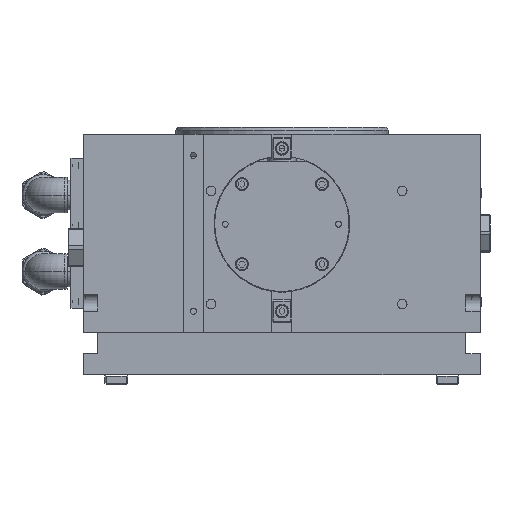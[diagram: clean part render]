
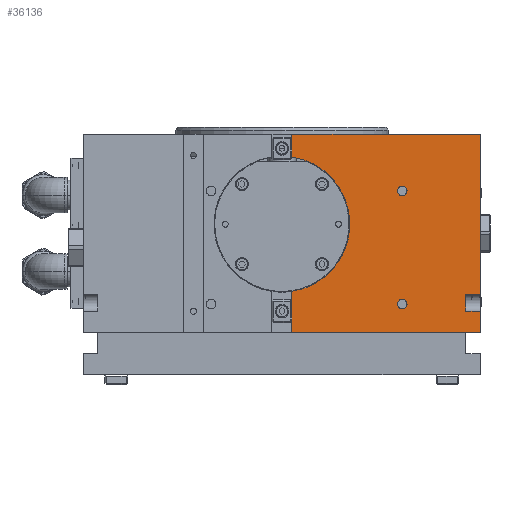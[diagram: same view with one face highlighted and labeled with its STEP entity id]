
A CAD part, front view. The second image highlights one B-rep face of the part: STEP entity #36136.
In plain terms, the highlighted planar face has unit normal (0, -1, 0).
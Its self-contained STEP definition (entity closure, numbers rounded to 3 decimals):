
#237 = CARTESIAN_POINT ( 'NONE',  ( 140., -120., 139. ) ) ;
#624 = CARTESIAN_POINT ( 'NONE',  ( 0., -120., 76.5 ) ) ;
#824 = LINE ( 'NONE', #9349, #4388 ) ;
#873 = CARTESIAN_POINT ( 'NONE',  ( 85., -120., 20. ) ) ;
#1135 = EDGE_CURVE ( 'NONE', #23582, #13482, #25125, .T. ) ;
#1144 = VECTOR ( 'NONE', #30641, 1000. ) ;
#1451 = EDGE_CURVE ( 'NONE', #10245, #1456, #824, .T. ) ;
#1456 = VERTEX_POINT ( 'NONE', #9730 ) ;
#2116 = ORIENTED_EDGE ( 'NONE', *, *, #18335, .F. ) ;
#2724 = DIRECTION ( 'NONE',  ( 0., 0., 1. ) ) ;
#3348 = CARTESIAN_POINT ( 'NONE',  ( 85., -120., 100. ) ) ;
#3645 = DIRECTION ( 'NONE',  ( 0., -1., 0. ) ) ;
#3974 = ORIENTED_EDGE ( 'NONE', *, *, #28690, .T. ) ;
#4222 = CARTESIAN_POINT ( 'NONE',  ( 85., -120., 100. ) ) ;
#4388 = VECTOR ( 'NONE', #33223, 1000. ) ;
#4541 = CARTESIAN_POINT ( 'NONE',  ( 85., -120., 96.6 ) ) ;
#5423 = EDGE_CURVE ( 'NONE', #20289, #31320, #18894, .T. ) ;
#5885 = DIRECTION ( 'NONE',  ( 1., 0., 0. ) ) ;
#6300 = ORIENTED_EDGE ( 'NONE', *, *, #38205, .F. ) ;
#6372 = CIRCLE ( 'NONE', #23128, 48. ) ;
#6687 = CARTESIAN_POINT ( 'NONE',  ( -140., -120., 140. ) ) ;
#6689 = VERTEX_POINT ( 'NONE', #4541 ) ;
#7036 = CARTESIAN_POINT ( 'NONE',  ( 85., -120., 16.6 ) ) ;
#7056 = VERTEX_POINT ( 'NONE', #16325 ) ;
#7265 = ORIENTED_EDGE ( 'NONE', *, *, #1451, .T. ) ;
#7978 = DIRECTION ( 'NONE',  ( 0., -1., 0. ) ) ;
#8594 = LINE ( 'NONE', #38285, #26103 ) ;
#8714 = LINE ( 'NONE', #35487, #17305 ) ;
#8853 = CARTESIAN_POINT ( 'NONE',  ( 85., -120., 20. ) ) ;
#9114 = VERTEX_POINT ( 'NONE', #30420 ) ;
#9227 = DIRECTION ( 'NONE',  ( 0., 1., 0. ) ) ;
#9349 = CARTESIAN_POINT ( 'NONE',  ( 130., -120., 27. ) ) ;
#9604 = EDGE_CURVE ( 'NONE', #34460, #14295, #36217, .T. ) ;
#9730 = CARTESIAN_POINT ( 'NONE',  ( 130., -120., 27. ) ) ;
#9815 = CARTESIAN_POINT ( 'NONE',  ( 140., -120., 27. ) ) ;
#10207 = DIRECTION ( 'NONE',  ( 0., -1., 0. ) ) ;
#10245 = VERTEX_POINT ( 'NONE', #31809 ) ;
#10353 = DIRECTION ( 'NONE',  ( 1., 0., 0. ) ) ;
#10665 = CARTESIAN_POINT ( 'NONE',  ( 7., -120., 0. ) ) ;
#11039 = LINE ( 'NONE', #10665, #22366 ) ;
#11123 = ORIENTED_EDGE ( 'NONE', *, *, #19064, .T. ) ;
#11261 = LINE ( 'NONE', #23120, #24214 ) ;
#11599 = VERTEX_POINT ( 'NONE', #35585 ) ;
#11769 = CARTESIAN_POINT ( 'NONE',  ( -140., -120., 140. ) ) ;
#12033 = AXIS2_PLACEMENT_3D ( 'NONE', #873, #35413, #26882 ) ;
#12208 = CIRCLE ( 'NONE', #38218, 3.4 ) ;
#12266 = VERTEX_POINT ( 'NONE', #29035 ) ;
#12704 = AXIS2_PLACEMENT_3D ( 'NONE', #4222, #3645, #30040 ) ;
#12730 = DIRECTION ( 'NONE',  ( 0., 0., -1. ) ) ;
#13482 = VERTEX_POINT ( 'NONE', #13766 ) ;
#13766 = CARTESIAN_POINT ( 'NONE',  ( 139., -120., 140. ) ) ;
#13800 = DIRECTION ( 'NONE',  ( 0., 0., -1. ) ) ;
#14040 = VECTOR ( 'NONE', #36923, 1000. ) ;
#14295 = VERTEX_POINT ( 'NONE', #16339 ) ;
#14309 = DIRECTION ( 'NONE',  ( -1., 0., 0. ) ) ;
#14713 = EDGE_CURVE ( 'NONE', #34417, #11599, #11039, .T. ) ;
#14852 = CARTESIAN_POINT ( 'NONE',  ( 7., -120., 0. ) ) ;
#14871 = FACE_BOUND ( 'NONE', #25969, .T. ) ;
#15337 = ORIENTED_EDGE ( 'NONE', *, *, #35868, .T. ) ;
#16084 = ORIENTED_EDGE ( 'NONE', *, *, #36910, .F. ) ;
#16325 = CARTESIAN_POINT ( 'NONE',  ( 140., -120., 1. ) ) ;
#16339 = CARTESIAN_POINT ( 'NONE',  ( 85., -120., 23.4 ) ) ;
#16454 = ORIENTED_EDGE ( 'NONE', *, *, #1135, .F. ) ;
#16489 = VECTOR ( 'NONE', #32300, 1000. ) ;
#16662 = CARTESIAN_POINT ( 'NONE',  ( -140., -120., 0. ) ) ;
#16954 = VECTOR ( 'NONE', #29283, 1000. ) ;
#17075 = ORIENTED_EDGE ( 'NONE', *, *, #5423, .F. ) ;
#17305 = VECTOR ( 'NONE', #20565, 1000. ) ;
#17529 = LINE ( 'NONE', #20455, #16489 ) ;
#17586 = FACE_BOUND ( 'NONE', #33962, .T. ) ;
#18122 = CARTESIAN_POINT ( 'NONE',  ( 139., -120., 0. ) ) ;
#18335 = EDGE_CURVE ( 'NONE', #36700, #23582, #11261, .T. ) ;
#18602 = CARTESIAN_POINT ( 'NONE',  ( 140., -120., 1. ) ) ;
#18894 = LINE ( 'NONE', #25111, #14040 ) ;
#19064 = EDGE_CURVE ( 'NONE', #20289, #13482, #8594, .T. ) ;
#19219 = DIRECTION ( 'NONE',  ( 0., 0., 1. ) ) ;
#20246 = ORIENTED_EDGE ( 'NONE', *, *, #29838, .F. ) ;
#20289 = VERTEX_POINT ( 'NONE', #237 ) ;
#20455 = CARTESIAN_POINT ( 'NONE',  ( 130., -120., 27. ) ) ;
#20518 = ORIENTED_EDGE ( 'NONE', *, *, #27971, .F. ) ;
#20565 = DIRECTION ( 'NONE',  ( 0., 0., -1. ) ) ;
#21937 = ORIENTED_EDGE ( 'NONE', *, *, #33374, .F. ) ;
#22288 = EDGE_CURVE ( 'NONE', #34417, #31672, #37815, .T. ) ;
#22366 = VECTOR ( 'NONE', #19219, 1000. ) ;
#22683 = ORIENTED_EDGE ( 'NONE', *, *, #22288, .T. ) ;
#23120 = CARTESIAN_POINT ( 'NONE',  ( 7., -120., 0. ) ) ;
#23128 = AXIS2_PLACEMENT_3D ( 'NONE', #624, #30512, #30312 ) ;
#23582 = VERTEX_POINT ( 'NONE', #31830 ) ;
#24214 = VECTOR ( 'NONE', #2724, 1000. ) ;
#25111 = CARTESIAN_POINT ( 'NONE',  ( 140., -120., 140. ) ) ;
#25125 = LINE ( 'NONE', #6687, #28868 ) ;
#25195 = AXIS2_PLACEMENT_3D ( 'NONE', #3348, #7978, #13800 ) ;
#25969 = EDGE_LOOP ( 'NONE', ( #31865, #33588 ) ) ;
#26103 = VECTOR ( 'NONE', #26657, 1000. ) ;
#26344 = FACE_OUTER_BOUND ( 'NONE', #27638, .T. ) ;
#26657 = DIRECTION ( 'NONE',  ( -0.707, 0., 0.707 ) ) ;
#26882 = DIRECTION ( 'NONE',  ( 0., 0., -1. ) ) ;
#27446 = CARTESIAN_POINT ( 'NONE',  ( 7., -120., 123.987 ) ) ;
#27638 = EDGE_LOOP ( 'NONE', ( #17075, #11123, #16454, #2116, #6300, #33068, #22683, #15337, #16084, #20246, #7265, #3974 ) ) ;
#27971 = EDGE_CURVE ( 'NONE', #9114, #6689, #38108, .T. ) ;
#28690 = EDGE_CURVE ( 'NONE', #1456, #31320, #17529, .T. ) ;
#28868 = VECTOR ( 'NONE', #10353, 1000. ) ;
#29035 = CARTESIAN_POINT ( 'NONE',  ( 140., -120., 15. ) ) ;
#29283 = DIRECTION ( 'NONE',  ( 1., 0., 0. ) ) ;
#29838 = EDGE_CURVE ( 'NONE', #10245, #12266, #32305, .T. ) ;
#30040 = DIRECTION ( 'NONE',  ( 0., 0., -1. ) ) ;
#30312 = DIRECTION ( 'NONE',  ( 0., 0., -1. ) ) ;
#30420 = CARTESIAN_POINT ( 'NONE',  ( 85., -120., 103.4 ) ) ;
#30512 = DIRECTION ( 'NONE',  ( 0., -1., 0. ) ) ;
#30641 = DIRECTION ( 'NONE',  ( 0.707, 0., 0.707 ) ) ;
#31320 = VERTEX_POINT ( 'NONE', #9815 ) ;
#31672 = VERTEX_POINT ( 'NONE', #18122 ) ;
#31809 = CARTESIAN_POINT ( 'NONE',  ( 130., -120., 15. ) ) ;
#31830 = CARTESIAN_POINT ( 'NONE',  ( 7., -120., 140. ) ) ;
#31865 = ORIENTED_EDGE ( 'NONE', *, *, #9604, .F. ) ;
#32300 = DIRECTION ( 'NONE',  ( 1., 0., 0. ) ) ;
#32305 = LINE ( 'NONE', #32482, #32490 ) ;
#32482 = CARTESIAN_POINT ( 'NONE',  ( 130., -120., 15. ) ) ;
#32490 = VECTOR ( 'NONE', #5885, 1000. ) ;
#33068 = ORIENTED_EDGE ( 'NONE', *, *, #14713, .F. ) ;
#33223 = DIRECTION ( 'NONE',  ( 0., 0., 1. ) ) ;
#33351 = LINE ( 'NONE', #18602, #1144 ) ;
#33374 = EDGE_CURVE ( 'NONE', #6689, #9114, #38197, .T. ) ;
#33588 = ORIENTED_EDGE ( 'NONE', *, *, #37336, .F. ) ;
#33962 = EDGE_LOOP ( 'NONE', ( #21937, #20518 ) ) ;
#34417 = VERTEX_POINT ( 'NONE', #14852 ) ;
#34460 = VERTEX_POINT ( 'NONE', #7036 ) ;
#35250 = PLANE ( 'NONE',  #37702 ) ;
#35413 = DIRECTION ( 'NONE',  ( 0., -1., 0. ) ) ;
#35487 = CARTESIAN_POINT ( 'NONE',  ( 140., -120., 140. ) ) ;
#35585 = CARTESIAN_POINT ( 'NONE',  ( 7., -120., 29.013 ) ) ;
#35868 = EDGE_CURVE ( 'NONE', #31672, #7056, #33351, .T. ) ;
#36136 = ADVANCED_FACE ( 'NONE', ( #14871, #17586, #26344 ), #35250, .F. ) ;
#36217 = CIRCLE ( 'NONE', #12033, 3.4 ) ;
#36700 = VERTEX_POINT ( 'NONE', #27446 ) ;
#36910 = EDGE_CURVE ( 'NONE', #12266, #7056, #8714, .T. ) ;
#36923 = DIRECTION ( 'NONE',  ( 0., 0., -1. ) ) ;
#37336 = EDGE_CURVE ( 'NONE', #14295, #34460, #12208, .T. ) ;
#37702 = AXIS2_PLACEMENT_3D ( 'NONE', #11769, #9227, #14309 ) ;
#37815 = LINE ( 'NONE', #16662, #16954 ) ;
#38108 = CIRCLE ( 'NONE', #12704, 3.4 ) ;
#38197 = CIRCLE ( 'NONE', #25195, 3.4 ) ;
#38205 = EDGE_CURVE ( 'NONE', #11599, #36700, #6372, .T. ) ;
#38218 = AXIS2_PLACEMENT_3D ( 'NONE', #8853, #10207, #12730 ) ;
#38285 = CARTESIAN_POINT ( 'NONE',  ( 139., -120., 140. ) ) ;
